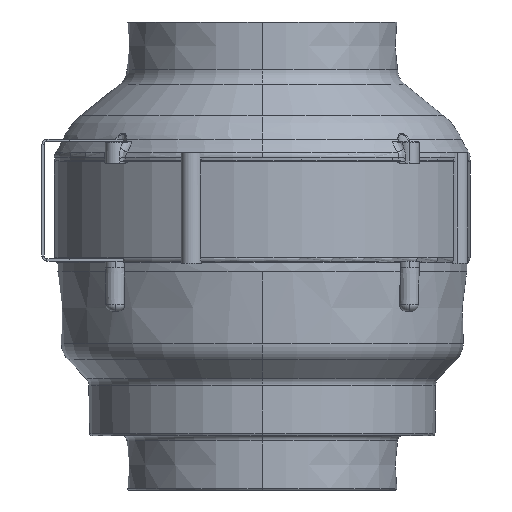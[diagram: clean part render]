
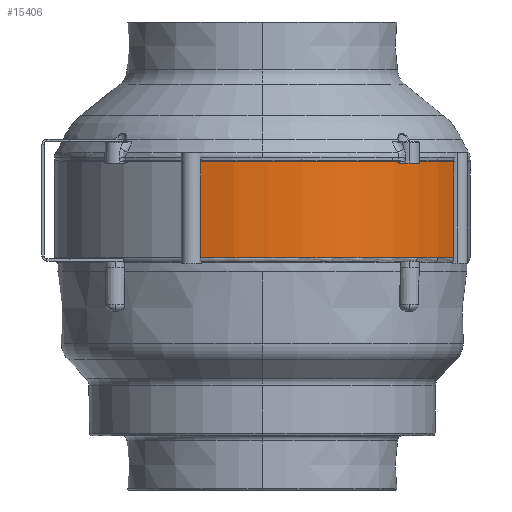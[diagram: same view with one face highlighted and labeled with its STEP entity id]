
A CAD part, left-side view. The second image highlights one B-rep face of the part: STEP entity #15406.
In plain terms, the highlighted cylindrical face has radius 95.5 mm (diameter 191 mm), a partial arc.
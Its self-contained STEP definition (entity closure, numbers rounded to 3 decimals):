
#2160 = LINE ( 'NONE', #15027, #2161 ) ;
#2161 = VECTOR ( 'NONE', #15028, 1000. ) ;
#2209 = LINE ( 'NONE', #15307, #2214 ) ;
#2214 = VECTOR ( 'NONE', #15312, 1000. ) ;
#7951 = CIRCLE ( 'NONE', #19513, 95.5 ) ;
#7963 = CIRCLE ( 'NONE', #19518, 95.5 ) ;
#8124 = CYLINDRICAL_SURFACE ( 'NONE', #19627, 95.5 ) ;
#8134 = FACE_OUTER_BOUND ( 'NONE', #14035, .T. ) ;
#8254 = EDGE_CURVE ( 'NONE', #13814, #13813, #2160, .T. ) ;
#8861 = EDGE_CURVE ( 'NONE', #13858, #13865, #2209, .T. ) ;
#8994 = EDGE_CURVE ( 'NONE', #13814, #13865, #7951, .T. ) ;
#9004 = EDGE_CURVE ( 'NONE', #13813, #13858, #7963, .T. ) ;
#10338 = CARTESIAN_POINT ( 'NONE',  ( 0., 0., 49. ) ) ;
#10339 = DIRECTION ( 'NONE',  ( 0., 0., 1. ) ) ;
#10340 = DIRECTION ( 'NONE',  ( 1., 0., 0. ) ) ;
#10371 = CARTESIAN_POINT ( 'NONE',  ( 0., 0., 4.5 ) ) ;
#10372 = DIRECTION ( 'NONE',  ( 0., 0., 1. ) ) ;
#10373 = DIRECTION ( 'NONE',  ( 1., 0., 0. ) ) ;
#11326 = ORIENTED_EDGE ( 'NONE', *, *, #9004, .T. ) ;
#11327 = ORIENTED_EDGE ( 'NONE', *, *, #8861, .T. ) ;
#11328 = ORIENTED_EDGE ( 'NONE', *, *, #8994, .F. ) ;
#11329 = ORIENTED_EDGE ( 'NONE', *, *, #8254, .T. ) ;
#13145 = CARTESIAN_POINT ( 'NONE',  ( -91.225, 28.255, 4.5 ) ) ;
#13146 = CARTESIAN_POINT ( 'NONE',  ( -91.225, 28.255, 49. ) ) ;
#13190 = CARTESIAN_POINT ( 'NONE',  ( -36.994, -88.044, 4.5 ) ) ;
#13197 = CARTESIAN_POINT ( 'NONE',  ( -36.994, -88.044, 49. ) ) ;
#13237 = DIRECTION ( 'NONE',  ( 1., 0., 0. ) ) ;
#13240 = DIRECTION ( 'NONE',  ( 0., 0., 1. ) ) ;
#13242 = CARTESIAN_POINT ( 'NONE',  ( 0., 0., 0. ) ) ;
#13813 = VERTEX_POINT ( 'NONE', #13145 ) ;
#13814 = VERTEX_POINT ( 'NONE', #13146 ) ;
#13858 = VERTEX_POINT ( 'NONE', #13190 ) ;
#13865 = VERTEX_POINT ( 'NONE', #13197 ) ;
#14035 = EDGE_LOOP ( 'NONE', ( #11326, #11327, #11328, #11329 ) ) ;
#15027 = CARTESIAN_POINT ( 'NONE',  ( -91.225, 28.255, 27.4 ) ) ;
#15028 = DIRECTION ( 'NONE',  ( 0., 0., -1. ) ) ;
#15307 = CARTESIAN_POINT ( 'NONE',  ( -36.994, -88.044, 27.4 ) ) ;
#15312 = DIRECTION ( 'NONE',  ( 0., 0., 1. ) ) ;
#15406 = ADVANCED_FACE ( 'NONE', ( #8134 ), #8124, .T. ) ;
#19513 = AXIS2_PLACEMENT_3D ( 'NONE', #10338, #10339, #10340 ) ;
#19518 = AXIS2_PLACEMENT_3D ( 'NONE', #10371, #10372, #10373 ) ;
#19627 = AXIS2_PLACEMENT_3D ( 'NONE', #13242, #13240, #13237 ) ;
